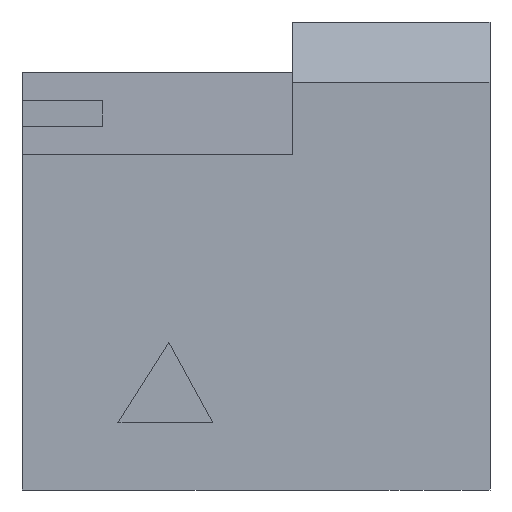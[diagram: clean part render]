
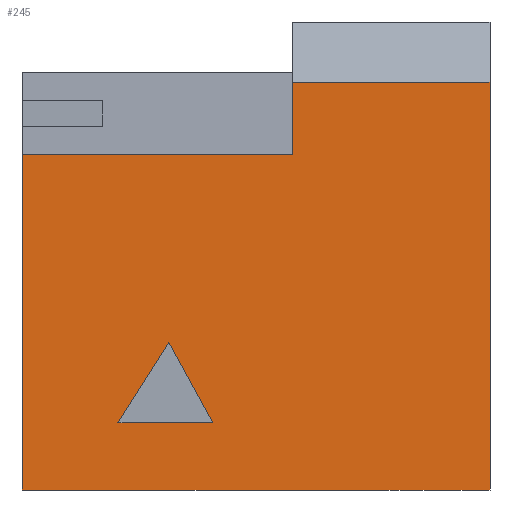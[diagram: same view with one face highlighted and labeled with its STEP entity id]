
A CAD part, front view. The second image highlights one B-rep face of the part: STEP entity #245.
In plain terms, the highlighted planar face has unit normal (0, -1, 0).
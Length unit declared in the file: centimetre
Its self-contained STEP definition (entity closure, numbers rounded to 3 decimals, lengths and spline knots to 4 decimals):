
#25 = DIRECTION ( 'NONE',  ( 1., 0., 0. ) ) ;
#26 = EDGE_CURVE ( 'NONE', #310, #690, #402, .T. ) ;
#34 = CARTESIAN_POINT ( 'NONE',  ( 577.9676, 0., 716.7744 ) ) ;
#47 = VERTEX_POINT ( 'NONE', #896 ) ;
#52 = LINE ( 'NONE', #816, #358 ) ;
#75 = ORIENTED_EDGE ( 'NONE', *, *, #487, .F. ) ;
#89 = CARTESIAN_POINT ( 'NONE',  ( 407.5964, 0., 143.9619 ) ) ;
#91 = VECTOR ( 'NONE', #148, 100. ) ;
#101 = VECTOR ( 'NONE', #505, 100. ) ;
#116 = EDGE_CURVE ( 'NONE', #908, #389, #872, .T. ) ;
#148 = DIRECTION ( 'NONE',  ( 0., 0., -1. ) ) ;
#154 = LINE ( 'NONE', #235, #101 ) ;
#171 = DIRECTION ( 'NONE',  ( 0., 0., 1. ) ) ;
#178 = DIRECTION ( 'NONE',  ( -1., 0., 0. ) ) ;
#181 = ORIENTED_EDGE ( 'NONE', *, *, #374, .F. ) ;
#215 = VECTOR ( 'NONE', #478, 100. ) ;
#221 = CARTESIAN_POINT ( 'NONE',  ( 577.9676, 0., 870.9397 ) ) ;
#235 = CARTESIAN_POINT ( 'NONE',  ( 0., 0., 870.9397 ) ) ;
#237 = LINE ( 'NONE', #591, #342 ) ;
#245 = ADVANCED_FACE ( 'NONE', ( #302, #523 ), #373, .F. ) ;
#246 = ORIENTED_EDGE ( 'NONE', *, *, #355, .F. ) ;
#260 = CARTESIAN_POINT ( 'NONE',  ( 577.9676, 0., 716.7744 ) ) ;
#276 = EDGE_LOOP ( 'NONE', ( #416, #75, #181 ) ) ;
#282 = EDGE_CURVE ( 'NONE', #47, #626, #237, .T. ) ;
#302 = FACE_BOUND ( 'NONE', #276, .T. ) ;
#310 = VERTEX_POINT ( 'NONE', #449 ) ;
#334 = DIRECTION ( 'NONE',  ( 1., 0., 0. ) ) ;
#342 = VECTOR ( 'NONE', #25, 100. ) ;
#355 = EDGE_CURVE ( 'NONE', #634, #626, #880, .T. ) ;
#358 = VECTOR ( 'NONE', #589, 100. ) ;
#363 = CARTESIAN_POINT ( 'NONE',  ( 313.7692, 0., 315.0622 ) ) ;
#373 = PLANE ( 'NONE',  #784 ) ;
#374 = EDGE_CURVE ( 'NONE', #690, #752, #565, .T. ) ;
#389 = VERTEX_POINT ( 'NONE', #769 ) ;
#393 = DIRECTION ( 'NONE',  ( 0., 0., -1. ) ) ;
#402 = LINE ( 'NONE', #467, #513 ) ;
#416 = ORIENTED_EDGE ( 'NONE', *, *, #26, .F. ) ;
#449 = CARTESIAN_POINT ( 'NONE',  ( 205.0692, 0., 143.9619 ) ) ;
#465 = ORIENTED_EDGE ( 'NONE', *, *, #793, .T. ) ;
#467 = CARTESIAN_POINT ( 'NONE',  ( 205.0692, 0., 143.9619 ) ) ;
#478 = DIRECTION ( 'NONE',  ( -0.536, 0., -0.844 ) ) ;
#487 = EDGE_CURVE ( 'NONE', #752, #310, #563, .T. ) ;
#491 = VECTOR ( 'NONE', #619, 100. ) ;
#504 = ORIENTED_EDGE ( 'NONE', *, *, #638, .T. ) ;
#505 = DIRECTION ( 'NONE',  ( -1., 0., 0. ) ) ;
#513 = VECTOR ( 'NONE', #334, 100. ) ;
#523 = FACE_OUTER_BOUND ( 'NONE', #910, .T. ) ;
#529 = DIRECTION ( 'NONE',  ( 0., 1., 0. ) ) ;
#555 = CARTESIAN_POINT ( 'NONE',  ( 407.5964, 0., 143.9619 ) ) ;
#558 = VERTEX_POINT ( 'NONE', #221 ) ;
#563 = LINE ( 'NONE', #363, #215 ) ;
#565 = LINE ( 'NONE', #555, #491 ) ;
#572 = ORIENTED_EDGE ( 'NONE', *, *, #282, .T. ) ;
#589 = DIRECTION ( 'NONE',  ( 0., 0., 1. ) ) ;
#591 = CARTESIAN_POINT ( 'NONE',  ( 0., 0., 0. ) ) ;
#619 = DIRECTION ( 'NONE',  ( -0.481, 0., 0.877 ) ) ;
#626 = VERTEX_POINT ( 'NONE', #869 ) ;
#634 = VERTEX_POINT ( 'NONE', #656 ) ;
#638 = EDGE_CURVE ( 'NONE', #634, #558, #154, .T. ) ;
#656 = CARTESIAN_POINT ( 'NONE',  ( 1000., 0., 870.9397 ) ) ;
#690 = VERTEX_POINT ( 'NONE', #89 ) ;
#698 = CARTESIAN_POINT ( 'NONE',  ( 1000., 0., 1000. ) ) ;
#711 = VECTOR ( 'NONE', #178, 100. ) ;
#725 = CARTESIAN_POINT ( 'NONE',  ( 0., 0., 1000. ) ) ;
#751 = VECTOR ( 'NONE', #393, 100. ) ;
#752 = VERTEX_POINT ( 'NONE', #791 ) ;
#769 = CARTESIAN_POINT ( 'NONE',  ( 0., 0., 716.7744 ) ) ;
#784 = AXIS2_PLACEMENT_3D ( 'NONE', #725, #529, #171 ) ;
#791 = CARTESIAN_POINT ( 'NONE',  ( 313.7692, 0., 315.0622 ) ) ;
#793 = EDGE_CURVE ( 'NONE', #389, #47, #882, .T. ) ;
#800 = EDGE_CURVE ( 'NONE', #908, #558, #52, .T. ) ;
#816 = CARTESIAN_POINT ( 'NONE',  ( 577.9676, 0., 716.7744 ) ) ;
#817 = ORIENTED_EDGE ( 'NONE', *, *, #116, .T. ) ;
#834 = ORIENTED_EDGE ( 'NONE', *, *, #800, .F. ) ;
#869 = CARTESIAN_POINT ( 'NONE',  ( 1000., 0., 0. ) ) ;
#872 = LINE ( 'NONE', #260, #711 ) ;
#880 = LINE ( 'NONE', #698, #91 ) ;
#882 = LINE ( 'NONE', #891, #751 ) ;
#891 = CARTESIAN_POINT ( 'NONE',  ( 0., 0., 1000. ) ) ;
#896 = CARTESIAN_POINT ( 'NONE',  ( 0., 0., 0. ) ) ;
#908 = VERTEX_POINT ( 'NONE', #34 ) ;
#910 = EDGE_LOOP ( 'NONE', ( #834, #817, #465, #572, #246, #504 ) ) ;
